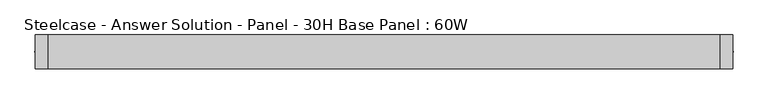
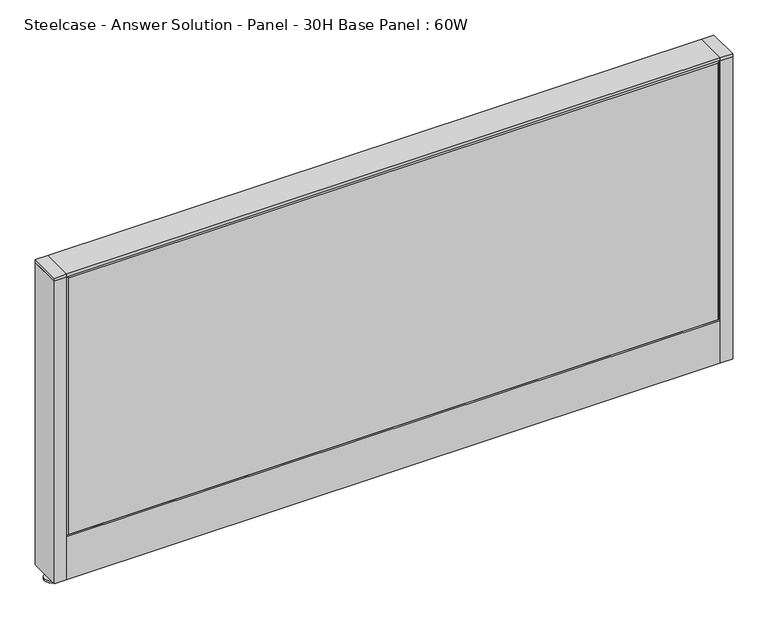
"""IFC4 building model written with IfcOpenShell, lengths in millimetres: furniture geometry, Steelcase - Answer Solution - Panel - 30H Base Panel : 60W."""

from ifc_helpers import new_model, si_unit, point, frame, frame_2d, origin, place, context, project, spatial, polyline, circle_curve, trimmed, segment, composite_curve, outline, extrude, faceted_brep, source, transform, mapped, element, save


def steelcase_answer_solution_panel_30h_base_panel_60w_e60cbb0e(model_context):
    return source(origin(), model_context, "Body", "SolidModel", [
        extrude(outline(composite_curve([segment(trimmed(circle_curve(frame_2d((776.224, 0.0320214)), 5.08), [point((781.304, 0.0320214))], [point((771.144, 0.0320214))], False, "CARTESIAN"), True, "CONTINUOUS"), segment(trimmed(circle_curve(frame_2d((776.224, 0.0320214)), 5.08), [point((771.144, 0.0320214))], [point((781.304, 0.0320214))], False, "CARTESIAN"), True, "CONTINUOUS")], self_intersect=False)), frame((0.0, 0.0, 5.0799671), z_axis=(0.0, 0.0, 1.0), x_axis=(1.0, 0.0, 0.0)), (0.0, 0.0, 1.0), 10.414),
        extrude(outline(composite_curve([segment(trimmed(circle_curve(frame_2d((776.224, 0.0320214)), 15.24), [point((791.464, 0.0320214))], [point((760.984, 0.0320214))], False, "CARTESIAN"), True, "CONTINUOUS"), segment(trimmed(circle_curve(frame_2d((776.224, 0.0320214)), 15.24), [point((760.984, 0.0320214))], [point((791.464, 0.0320214))], False, "CARTESIAN"), True, "CONTINUOUS")], self_intersect=False)), frame((0.0, 0.0, -3.29e-05), z_axis=(0.0, 0.0, 1.0), x_axis=(1.0, 0.0, 0.0)), (0.0, 0.0, 1.0), 5.08),
        extrude(outline(polyline([(790.575, 38.1320408), (790.575, -38.0679592), (762.0, -38.0679592), (762.0, 38.1320408), (790.575, 38.1320408)])), frame((0.0, 0.0, 761.0348), z_axis=(0.0, 0.0, 1.0), x_axis=(1.0, 0.0, 0.0)), (0.0, 0.0, 1.0), 7.3151671),
        extrude(outline(polyline([(790.575, 38.1320408), (790.575, -38.0679592), (762.0, -38.0679592), (762.0, 38.1320408), (790.575, 38.1320408)])), frame((0.0, 0.0, 15.4939671), z_axis=(0.0, 0.0, 1.0), x_axis=(1.0, 0.0, 0.0)), (0.0, 0.0, 1.0), 745.5408329),
        extrude(outline(composite_curve([segment(trimmed(circle_curve(frame_2d((-776.224, -0.0320214)), 5.08), [point((-781.304, -0.0320214))], [point((-771.144, -0.0320214))], False, "CARTESIAN"), True, "CONTINUOUS"), segment(trimmed(circle_curve(frame_2d((-776.224, -0.0320214)), 5.08), [point((-771.144, -0.0320214))], [point((-781.304, -0.0320214))], False, "CARTESIAN"), True, "CONTINUOUS")], self_intersect=False)), frame((0.0, 0.0, 5.0799671), z_axis=(0.0, 0.0, 1.0), x_axis=(1.0, 0.0, 0.0)), (0.0, 0.0, 1.0), 10.414),
        extrude(outline(composite_curve([segment(trimmed(circle_curve(frame_2d((-776.224, -0.0320214)), 15.24), [point((-791.464, -0.0320214))], [point((-760.984, -0.0320214))], False, "CARTESIAN"), True, "CONTINUOUS"), segment(trimmed(circle_curve(frame_2d((-776.224, -0.0320214)), 15.24), [point((-760.984, -0.0320214))], [point((-791.464, -0.0320214))], False, "CARTESIAN"), True, "CONTINUOUS")], self_intersect=False)), frame((0.0, 0.0, -3.29e-05), z_axis=(0.0, 0.0, 1.0), x_axis=(1.0, 0.0, 0.0)), (0.0, 0.0, 1.0), 5.08),
        extrude(outline(polyline([(-790.575, -38.1320408), (-790.575, 38.0679592), (-762.0, 38.0679592), (-762.0, -38.1320408), (-790.575, -38.1320408)])), frame((0.0, 0.0, 761.0348), z_axis=(0.0, 0.0, 1.0), x_axis=(1.0, 0.0, 0.0)), (0.0, 0.0, 1.0), 7.3151671),
        extrude(outline(polyline([(-790.575, -38.1320408), (-790.575, 38.0679592), (-762.0, 38.0679592), (-762.0, -38.1320408), (-790.575, -38.1320408)])), frame((0.0, 0.0, 15.4939671), z_axis=(0.0, 0.0, 1.0), x_axis=(1.0, 0.0, 0.0)), (0.0, 0.0, 1.0), 745.5408329),
        faceted_brep([(757.174, 38.1635011, 757.174), (757.174, 38.1635011, 125.476), (-757.174, 38.1635011, 125.476), (-757.174, 38.1635011, 757.174), (762.0, 33.3375011, 762.0), (-762.0, 33.3375011, 762.0), (-762.0, 33.3375011, 120.65), (762.0, 33.3375011, 120.65)], [[[0, 1, 2, 3]], [[4, 5, 6, 7]], [[4, 0, 3, 5]], [[5, 3, 2, 6]], [[6, 2, 1, 7]], [[7, 1, 0, 4]]]),
        faceted_brep([(757.174, -38.1635011, 757.174), (-757.174, -38.1635011, 757.174), (-757.174, -38.1635011, 125.476), (757.174, -38.1635011, 125.476), (762.0, -33.3375011, 762.0), (762.0, -33.3375011, 120.65), (-762.0, -33.3375011, 120.65), (-762.0, -33.3375011, 762.0)], [[[0, 1, 2, 3]], [[4, 5, 6, 7]], [[4, 7, 1, 0]], [[7, 6, 2, 1]], [[6, 5, 3, 2]], [[5, 4, 0, 3]]]),
        extrude(outline(polyline([(762.0, 38.1000194), (762.0, -38.1000194), (-762.0, -38.1000194), (-762.0, 38.1000194), (762.0, 38.1000194)])), frame((0.0, 0.0, 762.0), z_axis=(0.0, 0.0, 1.0), x_axis=(1.0, 0.0, 0.0)), (0.0, 0.0, 1.0), 6.35),
        extrude(outline(polyline([(37.3075215, 119.8575157), (25.4000011, 119.8575157), (25.4000011, 120.65), (38.1000194, 120.65), (38.1000194, 15.494), (37.3075215, 15.494), (37.3075215, 119.8575157)])), frame((-762.0, 0.0, 0.0), z_axis=(1.0, 0.0, 0.0), x_axis=(0.0, 1.0, 0.0)), (0.0, 0.0, 1.0), 1524.0),
        extrude(outline(polyline([(-37.3075215, 119.8575157), (-37.3075215, 15.494), (-38.1000194, 15.494), (-38.1000194, 120.65), (-25.4000011, 120.65), (-25.4000011, 119.8575157), (-37.3075215, 119.8575157)])), frame((-762.0, 0.0, 0.0), z_axis=(1.0, 0.0, 0.0), x_axis=(0.0, 1.0, 0.0)), (0.0, 0.0, 1.0), 1524.0),
    ])


if __name__ == "__main__":
    model = new_model("IFC4")
    model_context = context("Model", 3, world=origin())
    ifc_project = project(units=[si_unit("LENGTHUNIT", "METRE", prefix="MILLI")], contexts=[model_context])
    site = spatial("IfcSite", under=ifc_project)
    building = spatial("IfcBuilding", under=site)
    placement = place(None, origin())
    steelcase_answer_solution_panel_30h_base_panel_60w_shape = steelcase_answer_solution_panel_30h_base_panel_60w_e60cbb0e(model_context)
    element("IfcFurniture", 1, ObjectType="Steelcase - Answer Solution - Panel - 30H Base Panel : 60W", at=placement, inside=building, context=model_context, shape_type="MappedRepresentation", body=[
        mapped(steelcase_answer_solution_panel_30h_base_panel_60w_shape, transform((0.0, 0.0, 0.0), x_axis=(1.0, 0.0, 0.0), y_axis=(0.0, 1.0, 0.0), z_axis=(0.0, 0.0, 1.0))),
    ])
    save(model, "model.ifc")
